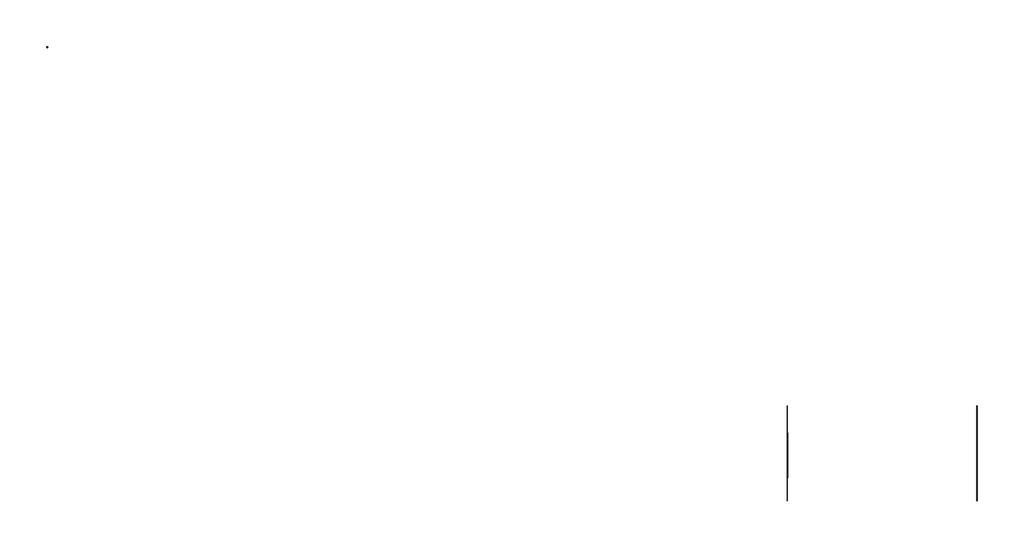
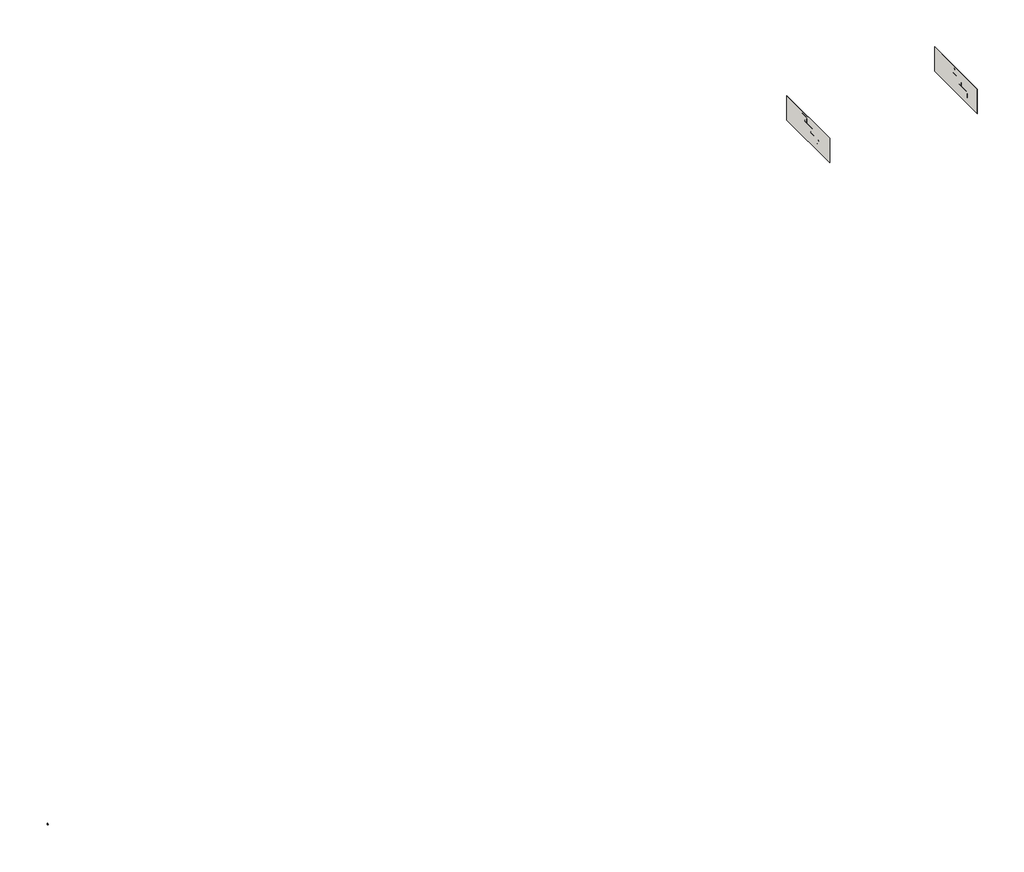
# One storey: 7 proxies, 2 walls.
"""IFC4 building model written with IfcOpenShell, lengths in millimetres."""

import ifcopenshell
import ifcopenshell.guid

model = None  # the IFC model being written
_history = None  # IfcOwnerHistory: only IFC2X3 demands one
_inside = {}  # id of a spatial element -> (the spatial element, [elements in it])
_under = {}  # id of a project, library or spatial element -> (it, [spatial elements below it])
_declared = {}  # id of a project -> (the project, [libraries it declares])
_typed = {}  # id of a type object -> (the type object, [elements of that type])
_made_of = {}  # id of a material, layer set ... -> (it, [elements and type objects made of it])


def new_model(schema):
    """Start an empty IFC model of exactly this schema.

    Asked for "IFC4X3", IfcOpenShell would pick the latest addendum, in which some entities
    have other attributes; the version numbers below select the first issue.
    IFC2X3 requires an IfcOwnerHistory on every rooted entity: one is made here for all.
    """
    global model, _history
    if schema == "IFC4X3":
        model = ifcopenshell.file(schema_version=(4, 3, 0, 0))
    else:
        model = ifcopenshell.file(schema=schema)
    _inside.clear()
    _under.clear()
    _declared.clear()
    _typed.clear()
    _made_of.clear()
    _history = None
    if model.schema == "IFC2X3":
        org = make("IfcOrganization", Name="unknown")
        user = make(
            "IfcPersonAndOrganization",
            ThePerson=make("IfcPerson", FamilyName="unknown"),
            TheOrganization=org,
        )
        app = make(
            "IfcApplication",
            ApplicationDeveloper=org,
            Version="unknown",
            ApplicationFullName="unknown",
            ApplicationIdentifier="unknown",
        )
        _history = make(
            "IfcOwnerHistory",
            OwningUser=user,
            OwningApplication=app,
            ChangeAction="ADDED",
            CreationDate=0,
        )
    return model


def make(cls, **values):
    """One entity of the class cls with the attributes given. An attribute that is None is left unset."""
    return model.create_entity(
        cls, **{name: value for name, value in values.items() if value is not None}
    )


def rooted(cls, **values):
    """An entity with a GlobalId (a new one), such as an element, a storey or a relation."""
    return make(cls, GlobalId=ifcopenshell.guid.new(), OwnerHistory=_history, **values)


def si_unit(unit_type, name, prefix=None):
    """IfcSIUnit, for example si_unit("LENGTHUNIT", "METRE", prefix="MILLI")."""
    return make("IfcSIUnit", UnitType=unit_type, Prefix=prefix, Name=name)


def assignment(units):
    """IfcUnitAssignment: the units of a project."""
    return None if units is None else make("IfcUnitAssignment", Units=units)


def point(xyz):
    """IfcCartesianPoint."""
    return None if xyz is None else make("IfcCartesianPoint", Coordinates=xyz)


def direction(xyz):
    """IfcDirection."""
    return None if xyz is None else make("IfcDirection", DirectionRatios=xyz)


def frame(location, z_axis=None, x_axis=None):
    """IfcAxis2Placement3D, a coordinate frame: its origin and axes. An axis left out is left unset."""
    return make(
        "IfcAxis2Placement3D",
        Location=point(location),
        Axis=direction(z_axis),
        RefDirection=direction(x_axis),
    )


def frame_2d(location, x_axis=None):
    """IfcAxis2Placement2D, a coordinate frame in the plane: its origin and x axis."""
    return make(
        "IfcAxis2Placement2D", Location=point(location), RefDirection=direction(x_axis)
    )


def origin():
    """The frame at (0, 0, 0) with its axes left unset."""
    return frame((0.0, 0.0, 0.0))


def origin_with_axes():
    """The frame at (0, 0, 0) with the z axis (0, 0, 1) and the x axis (1, 0, 0) written out."""
    return frame((0.0, 0.0, 0.0), z_axis=(0.0, 0.0, 1.0), x_axis=(1.0, 0.0, 0.0))


def place(relative_to, where):
    """IfcLocalPlacement: puts the frame where relative to a parent placement (None: the world)."""
    return make(
        "IfcLocalPlacement", PlacementRelTo=relative_to, RelativePlacement=where
    )


def context(
    kind, dimensions, precision=None, world=None, true_north=None, identifier=None
):
    """IfcGeometricRepresentationContext, for example the 3D "Model" context."""
    return make(
        "IfcGeometricRepresentationContext",
        ContextIdentifier=identifier,
        ContextType=kind,
        CoordinateSpaceDimension=dimensions,
        Precision=precision,
        WorldCoordinateSystem=world,
        TrueNorth=true_north,
    )


def project(units=None, contexts=None):
    """IfcProject with its units and contexts."""
    return rooted(
        "IfcProject",
        Name="project",
        RepresentationContexts=contexts,
        UnitsInContext=assignment(units),
    )


def spatial(cls, under=None, at=None, **own):
    """A site, building, storey or space (cls), placed at a placement, below another one or the project."""
    s = rooted(cls, ObjectPlacement=at, **own)
    if under is not None:
        _under.setdefault(under.id(), (under, []))[1].append(s)
    return s


def polyline(points):
    """IfcPolyline through the points."""
    return make("IfcPolyline", Points=[point(p) for p in points])


def circle_curve(where, radius):
    """IfcCircle in the frame where."""
    return make("IfcCircle", Position=where, Radius=radius)


def ellipse_curve(where, semi_axis1, semi_axis2):
    """IfcEllipse in the frame where."""
    return make(
        "IfcEllipse", Position=where, SemiAxis1=semi_axis1, SemiAxis2=semi_axis2
    )


def trimmed(basis, trim1, trim2, sense, master):
    """IfcTrimmedCurve: the piece of a basis curve between two trims."""
    return make(
        "IfcTrimmedCurve",
        BasisCurve=basis,
        Trim1=trim1,
        Trim2=trim2,
        SenseAgreement=sense,
        MasterRepresentation=master,
    )


def segment(curve, same_sense, transition):
    """IfcCompositeCurveSegment."""
    return make(
        "IfcCompositeCurveSegment",
        Transition=transition,
        SameSense=same_sense,
        ParentCurve=curve,
    )


def composite_curve(segments, self_intersect=None):
    """IfcCompositeCurve: segments joined end to end."""
    return make("IfcCompositeCurve", Segments=segments, SelfIntersect=self_intersect)


def outline(outer, holes=None, kind="AREA"):
    """IfcArbitraryClosedProfileDef: a profile drawn as a closed curve; with holes, ...WithVoids."""
    if holes is None:
        return make("IfcArbitraryClosedProfileDef", ProfileType=kind, OuterCurve=outer)
    return make(
        "IfcArbitraryProfileDefWithVoids",
        ProfileType=kind,
        OuterCurve=outer,
        InnerCurves=holes,
    )


def extrude(swept, where, along, depth):
    """IfcExtrudedAreaSolid: the profile swept, set in the frame where, extruded along a direction by depth."""
    return make(
        "IfcExtrudedAreaSolid",
        SweptArea=swept,
        Position=where,
        ExtrudedDirection=direction(along),
        Depth=depth,
    )


def shape(context_of_items, identifier, shape_type, items):
    """IfcShapeRepresentation: the items that make up one representation, for example the "Body"."""
    return make(
        "IfcShapeRepresentation",
        ContextOfItems=context_of_items,
        RepresentationIdentifier=identifier,
        RepresentationType=shape_type,
        Items=items,
    )


def source(mapping_origin, context_of_items, identifier, shape_type, items):
    """IfcRepresentationMap: a shape defined once, which mapped items show again and again."""
    return make(
        "IfcRepresentationMap",
        MappingOrigin=mapping_origin,
        MappedRepresentation=shape(context_of_items, identifier, shape_type, items),
    )


def transform(
    local_origin,
    x_axis=None,
    y_axis=None,
    z_axis=None,
    scale=None,
    scale2=None,
    scale3=None,
    uniform=True,
):
    """IfcCartesianTransformationOperator3D, or its non-uniform kind. x_axis, y_axis, z_axis: its Axis1, 2, 3."""
    if uniform:
        return make(
            "IfcCartesianTransformationOperator3D",
            Axis1=direction(x_axis),
            Axis2=direction(y_axis),
            LocalOrigin=point(local_origin),
            Scale=scale,
            Axis3=direction(z_axis),
        )
    return make(
        "IfcCartesianTransformationOperator3DnonUniform",
        Axis1=direction(x_axis),
        Axis2=direction(y_axis),
        LocalOrigin=point(local_origin),
        Scale=scale,
        Axis3=direction(z_axis),
        Scale2=scale2,
        Scale3=scale3,
    )


def mapped(mapping_source, mapping_target):
    """IfcMappedItem: shows the shape of a source again, moved by a transform."""
    return make(
        "IfcMappedItem", MappingSource=mapping_source, MappingTarget=mapping_target
    )


def made_of(thing, what):
    """Note that an element or type object is made of a material, layer set ...; save() writes the relation."""
    if what is not None:
        _made_of.setdefault(what.id(), (what, []))[1].append(thing)
    return thing


def element(
    cls,
    number,
    at=None,
    inside=None,
    cuts=None,
    type_object=None,
    material=None,
    context=None,
    identifier="Body",
    shape_type=None,
    held_by="IfcProductDefinitionShape",
    body=None,
    shapes=None,
    **own,
):
    """One element of the class cls, such as IfcWall. Its Tag is "e" and its number.

    at: its placement. inside: the storey or other place that contains it. cuts: it is an
    opening in that element (IfcRelVoidsElement). A single representation is given by context,
    identifier, shape_type and body (its items); several are given by shapes. held_by: the class
    of the entity that holds the representations. save() writes the other relations.
    """
    e = rooted(cls, Tag="e%d" % number, ObjectPlacement=at, **own)
    if body is not None:
        shapes = [shape(context, identifier, shape_type, body)]
    if shapes is not None:
        e.Representation = make(held_by, Representations=shapes)
    if inside is not None:
        _inside.setdefault(inside.id(), (inside, []))[1].append(e)
    if cuts is not None:
        rooted(
            "IfcRelVoidsElement", RelatingBuildingElement=cuts, RelatedOpeningElement=e
        )
    if type_object is not None:
        _typed.setdefault(type_object.id(), (type_object, []))[1].append(e)
    return made_of(e, material)


def aggregate(whole, parts):
    """IfcRelAggregates: a whole, such as a stair, and the parts it consists of."""
    return rooted("IfcRelAggregates", RelatingObject=whole, RelatedObjects=parts)


def save(model, path):
    """Write the relations noted so far, then the file.

    IfcRelAggregates (storeys below a building ...), IfcRelContainedInSpatialStructure (elements
    in a storey), IfcRelDefinesByType, IfcRelAssociatesMaterial and IfcRelDeclares: one each for
    every whole, place, type object, material and project.
    """
    for whole, parts in _under.values():
        aggregate(whole, parts)
    for where, things in _inside.values():
        rooted(
            "IfcRelContainedInSpatialStructure",
            RelatedElements=things,
            RelatingStructure=where,
        )
    for kind, things in _typed.values():
        rooted("IfcRelDefinesByType", RelatedObjects=things, RelatingType=kind)
    for what, things in _made_of.values():
        rooted("IfcRelAssociatesMaterial", RelatedObjects=things, RelatingMaterial=what)
    for by, libraries in _declared.values():
        rooted("IfcRelDeclares", RelatingContext=by, RelatedDefinitions=libraries)
    model.write(path)


def plane_surface(at):
    """IfcPlane: the flat surface through the origin of the frame at, square to its z axis."""
    return make("IfcPlane", Position=at)


def revolved_surface(curve, axis_point, axis_direction):
    """IfcSurfaceOfRevolution: the curve turned about the line through axis_point along axis_direction."""
    return make(
        "IfcSurfaceOfRevolution",
        SweptCurve=make("IfcArbitraryOpenProfileDef", ProfileType="CURVE", Curve=curve),
        AxisPosition=make("IfcAxis1Placement", Location=point(axis_point), Axis=direction(axis_direction)),
    )


def advanced_brep(points, edges, surfaces, faces):
    """IfcAdvancedBrep: a solid bounded by faces that lie on surfaces and meet in shared edges.

    An edge is (start, end): straight between two places in points (the first is 0);
    or (start, end, curve); or (start, end, curve, False) where it runs against its curve.
    A face is (place in surfaces, loops), or (place, loops, False) where it looks against
    its surface's normal. A loop lists edges by number (the first is 1), with a minus sign
    where the edge is run from its end to its start. The first loop is the outer one.
    """
    corners = [point(p) for p in points]
    vertices = [make("IfcVertexPoint", VertexGeometry=c) for c in corners]
    made = []
    for start, end, *more in edges:
        made.append(
            make(
                "IfcEdgeCurve",
                EdgeStart=vertices[start],
                EdgeEnd=vertices[end],
                EdgeGeometry=more[0] if more else make("IfcPolyline", Points=[corners[start], corners[end]]),
                SameSense=more[1] if len(more) > 1 else True,
            )
        )
    hull = []
    for where, loops, *sense in faces:
        bounds = []
        for j, loop in enumerate(loops):
            ring = [make("IfcOrientedEdge", EdgeElement=made[abs(k) - 1], Orientation=k > 0) for k in loop]
            bounds.append(
                make(
                    "IfcFaceOuterBound" if j == 0 else "IfcFaceBound",
                    Bound=make("IfcEdgeLoop", EdgeList=ring),
                    Orientation=True,
                )
            )
        hull.append(make("IfcAdvancedFace", Bounds=bounds, FaceSurface=surfaces[where], SameSense=sense[0] if sense else True))
    return make("IfcAdvancedBrep", Outer=make("IfcClosedShell", CfsFaces=hull))


def generic_models_0db20ba5(model_context):
    return source(origin(), model_context, "Body", "SweptSolid", [
        extrude(outline(composite_curve([segment(polyline([(303.5, 0.0), (0.0, 0.0)]), True, "CONTINUOUS"), segment(trimmed(circle_curve(frame_2d((0.0, -20.0)), 20.0), [point((0.0, 0.0))], [point((0.0, -40.0))], True, "CARTESIAN"), True, "CONTINUOUS"), segment(polyline([(0.0, -40.0), (3.5, -40.0), (3.5, -67.37), (-98.4135674, -67.37), (-98.4135674, 50.0)]), True, "CONTINUOUS"), segment(trimmed(circle_curve(frame_2d((-48.4135674, 50.0)), 50.0), [point((-98.4135674, 50.0))], [point((-48.4135674, 100.0))], False, "CARTESIAN"), True, "CONTINUOUS"), segment(polyline([(-48.4135674, 100.0), (303.5, 100.0), (303.5, 0.0)]), True, "CONTINUOUS")], self_intersect=False)), origin_with_axes(), (0.0, 0.0, 1.0), 10.0),
    ])


def generic_models_3fcc1150(model_context):
    return source(origin(), model_context, "Body", "SweptSolid", [
        extrude(outline(composite_curve([segment(polyline([(300.0, 0.0), (0.0, 0.0), (0.0, -67.37), (-100.0, -67.37), (-100.0, 42.0)]), True, "CONTINUOUS"), segment(trimmed(circle_curve(frame_2d((-42.0, 42.0)), 58.0), [point((-100.0, 42.0))], [point((-42.0, 100.0))], False, "CARTESIAN"), True, "CONTINUOUS"), segment(polyline([(-42.0, 100.0), (300.0, 100.0), (300.0, 0.0)]), True, "CONTINUOUS")], self_intersect=False)), origin_with_axes(), (0.0, 0.0, 1.0), 10.0),
    ])


def roca_polar_4x4cm_b0f7cce5(model_context):
    return source(origin(), model_context, "Body", "AdvancedBrep", [
        advanced_brep(
        [(0.0, -23.9, 23.9), (23.9, 0.0, 23.9), (23.9, 6.4, 23.9), (-6.4, -23.9, 23.9), (23.9, -23.9, -6.4), (23.9, -23.9, 0.0)],
        [
            (0, 1, circle_curve(frame((23.9, -23.9, 23.9), z_axis=(0.0, 0.0, -1.0), x_axis=(0.0, -1.0, 0.0)), 23.9)),
            (1, 2),
            (2, 3, circle_curve(frame((23.9, -23.9, 23.9), z_axis=(0.0, 0.0, 1.0), x_axis=(0.0, -1.0, 0.0)), 30.3)),
            (3, 0),
            (3, 4, circle_curve(frame((23.9, -23.9, 23.9), z_axis=(0.0, -1.0, 0.0), x_axis=(0.0, 0.0, 1.0)), 30.3)),
            (4, 5),
            (5, 0, circle_curve(frame((23.9, -23.9, 23.9), z_axis=(0.0, 1.0, 0.0), x_axis=(0.0, 0.0, 1.0)), 23.9)),
            (5, 1, circle_curve(frame((23.9, -23.9, 23.9), z_axis=(1.0, 0.0, 0.0), x_axis=(0.0, 1.0, 0.0)), 23.9)),
            (4, 2, circle_curve(frame((23.9, -23.9, 23.9), z_axis=(1.0, 0.0, 0.0), x_axis=(0.0, 1.0, 0.0)), 30.3)),
        ],
        [
            plane_surface(frame((-0.3, -23.9, 23.9), z_axis=(0.0, 0.0, 1.0), x_axis=(0.0, 1.0, 0.0))),
            plane_surface(frame((-0.3, -23.9, 23.9), z_axis=(0.0, -1.0, 0.0), x_axis=(0.0, 0.0, -1.0))),
            revolved_surface(trimmed(ellipse_curve(frame((23.9, -23.9, 23.9), z_axis=(0.0, 0.0, -1.0), x_axis=(0.0, -1.0, 0.0)), 23.9, 23.9), [point((0.0, -23.9, 23.9))], [point((23.9, 0.0, 23.9))], True, "CARTESIAN"), (-0.3, -23.9, 23.9), (-1.0, 0.0, 0.0)),
            plane_surface(frame((23.9, -23.9, 23.9), z_axis=(1.0, 0.0, 0.0), x_axis=(0.0, 1.0, 0.0))),
            revolved_surface(trimmed(ellipse_curve(frame((23.9, -23.9, 23.9), z_axis=(0.0, 0.0, 1.0), x_axis=(0.0, -1.0, 0.0)), 30.3, 30.3), [point((23.9, 6.4, 23.9))], [point((-6.4, -23.9, 23.9))], True, "CARTESIAN"), (-0.3, -23.9, 23.9), (-1.0, 0.0, 0.0)),
        ],
        [
            (0, [[1, 2, 3, 4]]),
            (1, [[5, 6, 7, -4]]),
            (2, [[8, -1, -7]]),
            (3, [[9, -2, -8, -6]]),
            (4, [[-3, -9, -5]]),
        ],
    ),
    ])


model = new_model("IFC4")

# Units and contexts
model_context = context("Model", 3, world=origin())
ifc_project = project(units=[si_unit("LENGTHUNIT", "METRE", prefix="MILLI")], contexts=[model_context])

# Site, building, storey
site = spatial("IfcSite", under=ifc_project)
building = spatial("IfcBuilding", under=site)
storey = spatial("IfcBuildingStorey", under=building, Name="- EXAGRES_Catalogo ESCALERAS", Elevation=34000.0)

# Proxies
placement = place(None, origin())
generic_models_shape = generic_models_0db20ba5(model_context)
element("IfcBuildingElementProxy", 1, Name="EXAGRES - Step Skirting ML 39.5x17.5 : Exagres_Roca_Polar_Left", ObjectType="EXAGRES - Step Skirting ML 39.5x17.5 : Exagres_Roca_Polar_Left", at=placement, inside=storey, context=model_context, shape_type="MappedRepresentation", body=[
    mapped(generic_models_shape, transform((4748.0970953, -15091.6587674, 33987.3684211), x_axis=(0.0, 1.0, 0.0), y_axis=(0.0, 0.0, 1.0), z_axis=(1.0, 0.0, 0.0))),
])
element("IfcBuildingElementProxy", 2, Name="EXAGRES - Step Skirting ML 39.5x17.5 : Exagres_Roca_Polar_Left", ObjectType="EXAGRES - Step Skirting ML 39.5x17.5 : Exagres_Roca_Polar_Left", at=placement, inside=storey, context=model_context, shape_type="MappedRepresentation", body=[
    mapped(generic_models_shape, transform((4748.0970953, -14791.6587674, 34154.7368421), x_axis=(0.0, 1.0, 0.0), y_axis=(0.0, 0.0, 1.0), z_axis=(1.0, 0.0, 0.0))),
])
element("IfcBuildingElementProxy", 3, Name="EXAGRES - Step Skirting ML 39.5x17.5 : Exagres_Roca_Polar_Left", ObjectType="EXAGRES - Step Skirting ML 39.5x17.5 : Exagres_Roca_Polar_Left", at=placement, inside=storey, context=model_context, shape_type="MappedRepresentation", body=[
    mapped(generic_models_shape, transform((4748.0970953, -14491.6587674, 34322.1052632), x_axis=(0.0, 1.0, 0.0), y_axis=(0.0, 0.0, 1.0), z_axis=(1.0, 0.0, 0.0))),
])
generic_models_2_shape = generic_models_3fcc1150(model_context)
element("IfcBuildingElementProxy", 4, Name="EXAGRES - Step Skirting Straight 42.3x17.5 : Exagres_Roca_Polar_Left", ObjectType="EXAGRES - Step Skirting Straight 42.3x17.5 : Exagres_Roca_Polar_Left", at=placement, inside=storey, context=model_context, shape_type="MappedRepresentation", body=[
    mapped(generic_models_2_shape, transform((8948.0970953, -15111.6587674, 33987.3684211), x_axis=(0.0, 1.0, 0.0), y_axis=(0.0, 0.0, 1.0), z_axis=(1.0, 0.0, 0.0))),
])
element("IfcBuildingElementProxy", 5, Name="EXAGRES - Step Skirting Straight 42.3x17.5 : Exagres_Roca_Polar_Left", ObjectType="EXAGRES - Step Skirting Straight 42.3x17.5 : Exagres_Roca_Polar_Left", at=placement, inside=storey, context=model_context, shape_type="MappedRepresentation", body=[
    mapped(generic_models_2_shape, transform((8948.0970953, -14811.6587674, 34154.7368421), x_axis=(0.0, 1.0, 0.0), y_axis=(0.0, 0.0, 1.0), z_axis=(1.0, 0.0, 0.0))),
])
element("IfcBuildingElementProxy", 6, Name="EXAGRES - Step Skirting Straight 42.3x17.5 : Exagres_Roca_Polar_Left", ObjectType="EXAGRES - Step Skirting Straight 42.3x17.5 : Exagres_Roca_Polar_Left", at=placement, inside=storey, context=model_context, shape_type="MappedRepresentation", body=[
    mapped(generic_models_2_shape, transform((8948.0970953, -14511.6587674, 34322.1052632), x_axis=(0.0, 1.0, 0.0), y_axis=(0.0, 0.0, 1.0), z_axis=(1.0, 0.0, 0.0))),
])
roca_polar_4x4cm_shape = roca_polar_4x4cm_b0f7cce5(model_context)
element("IfcBuildingElementProxy", 7, Name="EXAGRES - Coving Corner : Roca_Polar_4x4cm", ObjectType="EXAGRES - Coving Corner : Roca_Polar_4x4cm", at=placement, inside=storey, context=model_context, shape_type="MappedRepresentation", body=[
    mapped(roca_polar_4x4cm_shape, transform((-11658.0797103, -5627.8185886, 13500.0), x_axis=(1.0, 0.0, 0.0), y_axis=(0.0, 1.0, 0.0), z_axis=(0.0, 0.0, 1.0))),
])

# Walls
element("IfcWall", 8, ObjectType="Muro básico:muro", at=placement, inside=storey, context=model_context, shape_type="SweptSolid", body=[
    extrude(outline(polyline([(4747.0970953, -15703.6587674), (4747.0970953, -13593.6587674), (4748.0970953, -13593.6587674), (4748.0970953, -15703.6587674), (4747.0970953, -15703.6587674)])), frame((0.0, 0.0, 33744.3153552), z_axis=(0.0, 0.0, 1.0), x_axis=(1.0, 0.0, 0.0)), (0.0, 0.0, 1.0), 734.4858442),
])
element("IfcWall", 9, ObjectType="Muro básico:muro", at=placement, inside=storey, context=model_context, shape_type="SweptSolid", body=[
    extrude(outline(polyline([(8947.0970953, -15703.6587674), (8947.0970953, -13593.6587674), (8948.0970953, -13593.6587674), (8948.0970953, -15703.6587674), (8947.0970953, -15703.6587674)])), frame((0.0, 0.0, 33744.3153552), z_axis=(0.0, 0.0, 1.0), x_axis=(1.0, 0.0, 0.0)), (0.0, 0.0, 1.0), 734.4858442),
])

save(model, "model.ifc")
